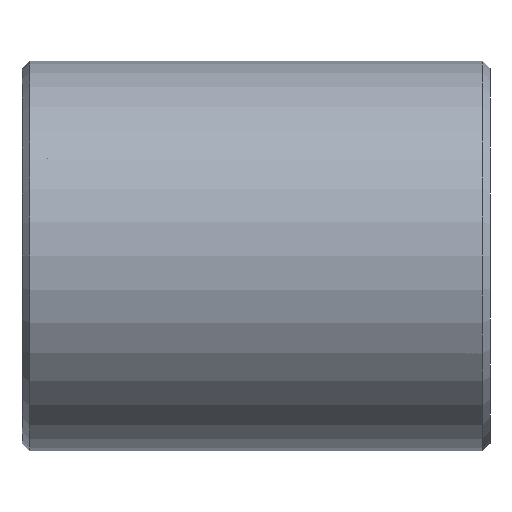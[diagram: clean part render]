
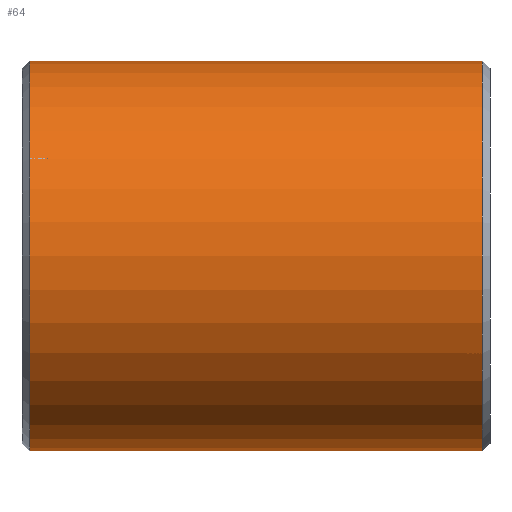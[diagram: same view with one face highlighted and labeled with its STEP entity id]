
A CAD part, left-side view. The second image highlights one B-rep face of the part: STEP entity #64.
In plain terms, the highlighted cylindrical face has radius 12.5 mm (diameter 25 mm), a partial arc.
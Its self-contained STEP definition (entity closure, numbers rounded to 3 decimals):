
#11 = DIRECTION ( 'NONE',  ( 0., 1., 0. ) ) ;
#25 = LINE ( 'NONE', #1277, #57 ) ;
#57 = VECTOR ( 'NONE', #1143, 1000. ) ;
#64 = ADVANCED_FACE ( 'NONE', ( #772 ), #492, .T. ) ;
#150 = VERTEX_POINT ( 'NONE', #532 ) ;
#163 = ORIENTED_EDGE ( 'NONE', *, *, #183, .F. ) ;
#183 = EDGE_CURVE ( 'NONE', #150, #1299, #25, .T. ) ;
#197 = CARTESIAN_POINT ( 'NONE',  ( 0., 1., -12.5 ) ) ;
#213 = DIRECTION ( 'NONE',  ( 0., 0., 1. ) ) ;
#242 = ORIENTED_EDGE ( 'NONE', *, *, #777, .T. ) ;
#254 = DIRECTION ( 'NONE',  ( 0., 1., 0. ) ) ;
#290 = CIRCLE ( 'NONE', #1124, 12.5 ) ;
#352 = ORIENTED_EDGE ( 'NONE', *, *, #826, .T. ) ;
#428 = VERTEX_POINT ( 'NONE', #1296 ) ;
#492 = CYLINDRICAL_SURFACE ( 'NONE', #1165, 12.5 ) ;
#523 = EDGE_LOOP ( 'NONE', ( #163, #352, #242, #752 ) ) ;
#527 = CARTESIAN_POINT ( 'NONE',  ( 0., 65.513, 0. ) ) ;
#532 = CARTESIAN_POINT ( 'NONE',  ( 0., -28., -12.5 ) ) ;
#560 = CARTESIAN_POINT ( 'NONE',  ( 0., 1., 0. ) ) ;
#682 = EDGE_CURVE ( 'NONE', #1086, #1299, #938, .T. ) ;
#701 = LINE ( 'NONE', #1069, #818 ) ;
#752 = ORIENTED_EDGE ( 'NONE', *, *, #682, .T. ) ;
#768 = DIRECTION ( 'NONE',  ( 0., 0., -1. ) ) ;
#772 = FACE_OUTER_BOUND ( 'NONE', #523, .T. ) ;
#777 = EDGE_CURVE ( 'NONE', #428, #1086, #701, .T. ) ;
#790 = CARTESIAN_POINT ( 'NONE',  ( 0., 1., 12.5 ) ) ;
#818 = VECTOR ( 'NONE', #11, 1000. ) ;
#826 = EDGE_CURVE ( 'NONE', #150, #428, #290, .T. ) ;
#880 = DIRECTION ( 'NONE',  ( 0., 0., 1. ) ) ;
#895 = AXIS2_PLACEMENT_3D ( 'NONE', #560, #1078, #880 ) ;
#938 = CIRCLE ( 'NONE', #895, 12.5 ) ;
#1069 = CARTESIAN_POINT ( 'NONE',  ( 0., 65.513, 12.5 ) ) ;
#1078 = DIRECTION ( 'NONE',  ( 0., -1., 0. ) ) ;
#1086 = VERTEX_POINT ( 'NONE', #790 ) ;
#1124 = AXIS2_PLACEMENT_3D ( 'NONE', #1208, #254, #768 ) ;
#1143 = DIRECTION ( 'NONE',  ( 0., 1., 0. ) ) ;
#1165 = AXIS2_PLACEMENT_3D ( 'NONE', #527, #1370, #213 ) ;
#1208 = CARTESIAN_POINT ( 'NONE',  ( 0., -28., 0. ) ) ;
#1277 = CARTESIAN_POINT ( 'NONE',  ( 0., 65.513, -12.5 ) ) ;
#1296 = CARTESIAN_POINT ( 'NONE',  ( 0., -28., 12.5 ) ) ;
#1299 = VERTEX_POINT ( 'NONE', #197 ) ;
#1370 = DIRECTION ( 'NONE',  ( 0., 1., 0. ) ) ;
